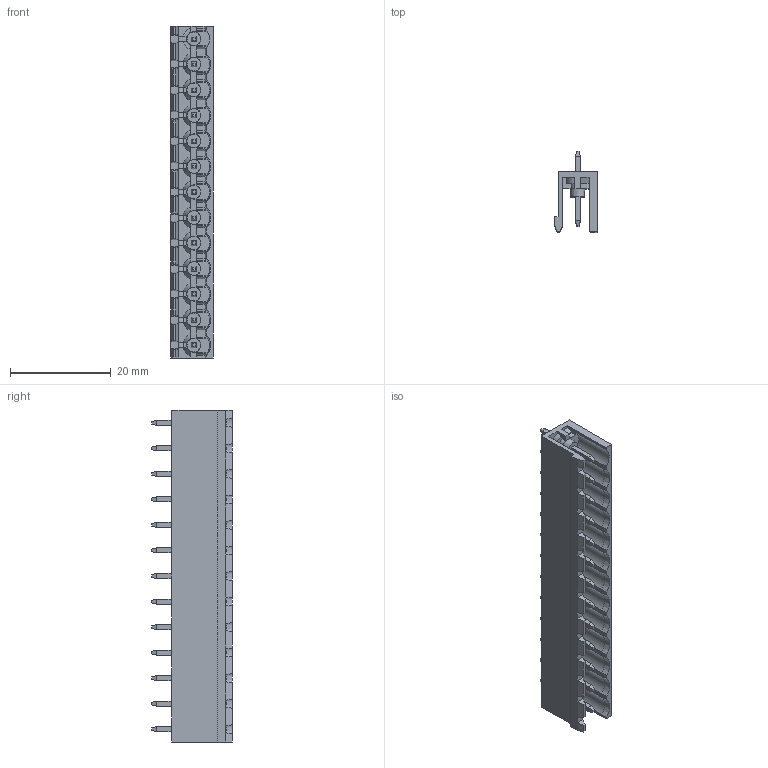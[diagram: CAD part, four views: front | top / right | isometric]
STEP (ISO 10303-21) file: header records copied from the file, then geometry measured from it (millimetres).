
FILE_DESCRIPTION (( 'STEP AP203' ), '1' );
FILE_NAME ('BR8MC1-13.STEP', '2020-03-18T03:01:28', ( '' ), ( '' ), 'SwSTEP 2.0', 'SolidWorks 2019', '' );
FILE_SCHEMA (( 'CONFIG_CONTROL_DESIGN' ));
Length unit declared in the file: millimetre
Products named in the file (1): BR8MC1-13
Bounding box: 8.5 x 16.03 x 66.04 mm (x, y, z)
Volume: 2502.1 mm3; surface area: 5556.3 mm2
Topology: 1 solids, 1 shells, 1098 faces, 2862 edges, 1766 vertices
Faces by surface type: plane 944, cylinder 66, cone 62, sphere 26
Entity records: 32648 total; most frequent: CARTESIAN_POINT 6225, ORIENTED_EDGE 5620, DIRECTION 5145, EDGE_CURVE 2810, VECTOR 2401, LINE 2401, VERTEX_POINT 1740, AXIS2_PLACEMENT_3D 1372
